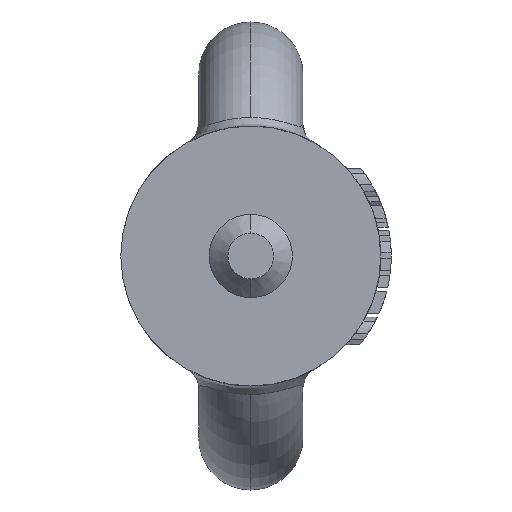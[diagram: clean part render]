
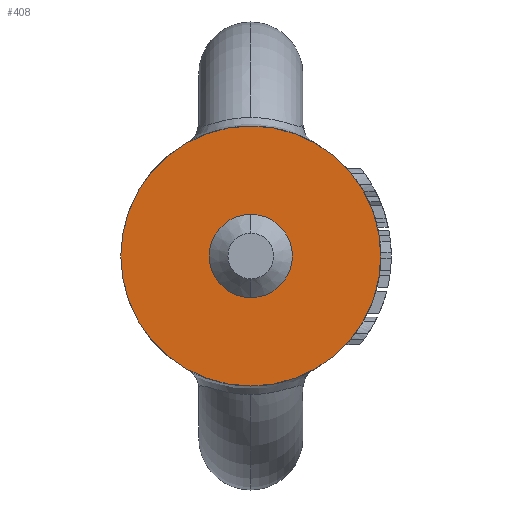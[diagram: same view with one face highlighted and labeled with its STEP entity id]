
A CAD part, front view. The second image highlights one B-rep face of the part: STEP entity #408.
In plain terms, the highlighted planar face has unit normal (0, -1, 0).
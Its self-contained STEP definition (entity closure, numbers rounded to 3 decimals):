
#408=ADVANCED_FACE('',(#821,#822),#823,.F.);
#821=FACE_OUTER_BOUND('',#1987,.T.);
#822=FACE_BOUND('',#1988,.T.);
#823=PLANE('',#1989);
#1987=EDGE_LOOP('',(#3095,#3096));
#1988=EDGE_LOOP('',(#3097,#3098));
#1989=AXIS2_PLACEMENT_3D('',#3099,#3100,#3101);
#3095=ORIENTED_EDGE('',*,*,#3176,.F.);
#3096=ORIENTED_EDGE('',*,*,#3565,.F.);
#3097=ORIENTED_EDGE('',*,*,#3219,.T.);
#3098=ORIENTED_EDGE('',*,*,#3233,.T.);
#3099=CARTESIAN_POINT('',(0.,1.304,0.0));
#3100=DIRECTION('',(0.0,1.0,0.0));
#3101=DIRECTION('',(1.0,0.0,-0.0));
#3176=EDGE_CURVE('',#3690,#3693,#3694,.T.);
#3219=EDGE_CURVE('',#3770,#3774,#3776,.T.);
#3233=EDGE_CURVE('',#3774,#3770,#3792,.T.);
#3565=EDGE_CURVE('',#3693,#3690,#4264,.T.);
#3690=VERTEX_POINT('',#4611);
#3693=VERTEX_POINT('',#4615);
#3694=CIRCLE('',#4616,12.5);
#3770=VERTEX_POINT('',#4734);
#3774=VERTEX_POINT('',#4739);
#3776=CIRCLE('',#4742,3.);
#3792=CIRCLE('',#4762,3.);
#4264=CIRCLE('',#5831,12.5);
#4611=CARTESIAN_POINT('',(12.5,1.304,0.));
#4615=CARTESIAN_POINT('',(-12.5,1.304,0.));
#4616=AXIS2_PLACEMENT_3D('',#6179,#6180,#6181);
#4734=CARTESIAN_POINT('',(0.0,1.304,3.));
#4739=CARTESIAN_POINT('',(0.,1.304,-3.));
#4742=AXIS2_PLACEMENT_3D('',#6262,#6263,#6264);
#4762=AXIS2_PLACEMENT_3D('',#6281,#6282,#6283);
#5831=AXIS2_PLACEMENT_3D('',#6572,#6573,#6574);
#6179=CARTESIAN_POINT('',(0.0,1.304,0.0));
#6180=DIRECTION('',(-0.0,1.0,0.0));
#6181=DIRECTION('',(1.0,0.0,0.0));
#6262=CARTESIAN_POINT('',(0.0,1.304,0.0));
#6263=DIRECTION('',(0.0,1.0,0.0));
#6264=DIRECTION('',(0.0,0.0,1.0));
#6281=CARTESIAN_POINT('',(0.0,1.304,0.0));
#6282=DIRECTION('',(0.0,1.0,0.0));
#6283=DIRECTION('',(0.0,0.0,1.0));
#6572=CARTESIAN_POINT('',(0.0,1.304,0.0));
#6573=DIRECTION('',(-0.0,1.0,0.0));
#6574=DIRECTION('',(1.0,0.0,0.0));
